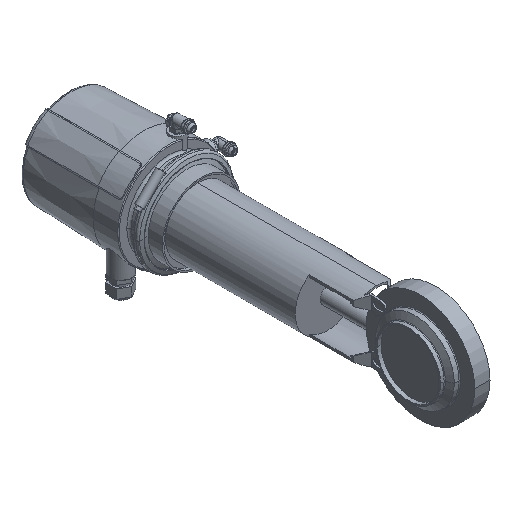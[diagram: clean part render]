
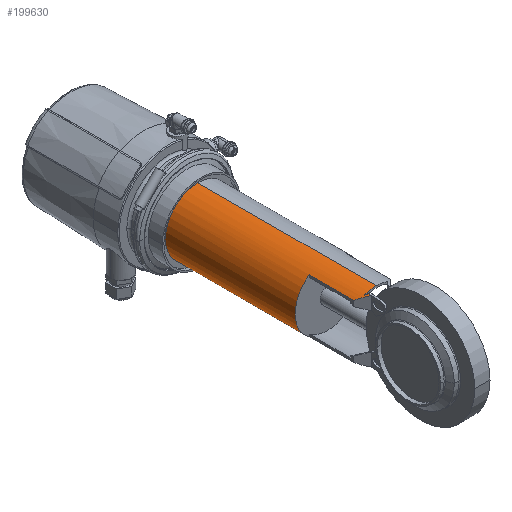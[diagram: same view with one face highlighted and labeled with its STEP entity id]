
A CAD part, isometric view. The second image highlights one B-rep face of the part: STEP entity #199630.
In plain terms, the highlighted cylindrical face has radius 42.5 mm (diameter 85 mm), a partial arc.
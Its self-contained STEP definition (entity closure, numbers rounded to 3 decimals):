
#177560=CARTESIAN_POINT('',(-98.126,-262.662,
0.));
#177570=DIRECTION('',(0.,-0.113,-0.994));
#177580=DIRECTION('',(0.,0.994,-0.113));
#177590=AXIS2_PLACEMENT_3D('',#177560,#177570,#177580);
#177600=ELLIPSE('',#177590,375.431,42.5);
#177610=CARTESIAN_POINT('',(-110.626,93.857,
-40.62));
#177620=VERTEX_POINT('',#177610);
#177630=CARTESIAN_POINT('',(-108.774,98.46,
-41.145));
#177640=VERTEX_POINT('',#177630);
#177650=EDGE_CURVE('',#177620,#177640,#177600,.T.);
#179240=CARTESIAN_POINT('',(-108.126,101.348,
-41.307));
#179250=VERTEX_POINT('',#179240);
#179300=CARTESIAN_POINT('',(-108.126,169.806,
-41.307));
#179310=DIRECTION('',(0.,-1.,0.));
#179320=VECTOR('',#179310,1.);
#179330=LINE('',#179300,#179320);
#179340=CARTESIAN_POINT('',(-108.126,97.812,
-41.307));
#179350=VERTEX_POINT('',#179340);
#179360=EDGE_CURVE('',#179250,#179350,#179330,.T.);
#180410=CARTESIAN_POINT('',(-98.126,106.406,
0.));
#180420=DIRECTION('',(0.,-1.,0.));
#180430=DIRECTION('',(0.,0.,-1.));
#180440=AXIS2_PLACEMENT_3D('',#180410,#180420,#180430);
#180450=CIRCLE('',#180440,42.5);
#180460=CARTESIAN_POINT('',(-98.126,106.406,-42.5));
#180470=VERTEX_POINT('',#180460);
#180500=CARTESIAN_POINT('',(-113.184,106.406,
-39.743));
#180510=VERTEX_POINT('',#180500);
#180520=EDGE_CURVE('',#180510,#180470,#180450,.T.);
#181670=CARTESIAN_POINT('',(-98.126,106.406,
0.));
#181680=DIRECTION('',(0.,-1.,0.));
#181690=DIRECTION('',(0.,0.,1.));
#181700=AXIS2_PLACEMENT_3D('',#181670,#181680,#181690);
#181710=CIRCLE('',#181700,42.5);
#181740=CARTESIAN_POINT('',(-98.126,106.406,42.5));
#181750=VERTEX_POINT('',#181740);
#181990=CARTESIAN_POINT('',(-113.184,106.406,
39.743));
#182000=VERTEX_POINT('',#181990);
#182030=EDGE_CURVE('',#181750,#182000,#181710,.T.);
#188430=CARTESIAN_POINT('',(-122.126,169.806,
-35.075));
#188440=VERTEX_POINT('',#188430);
#188470=CARTESIAN_POINT('',(-98.126,169.806,
0.));
#188480=DIRECTION('',(0.,-1.,0.));
#188490=DIRECTION('',(0.,0.,1.));
#188500=AXIS2_PLACEMENT_3D('',#188470,#188480,#188490);
#188510=CIRCLE('',#188500,42.5);
#188520=CARTESIAN_POINT('',(-122.126,169.806,
35.075));
#188530=VERTEX_POINT('',#188520);
#188540=EDGE_CURVE('',#188530,#188440,#188510,.T.);
#193590=CARTESIAN_POINT('',(-98.126,91.348,
0.));
#193600=DIRECTION('',(0.707,0.707,0.));
#193610=DIRECTION('',(0.707,-0.707,0.));
#193620=AXIS2_PLACEMENT_3D('',#193590,#193600,#193610);
#193630=ELLIPSE('',#193620,60.104,42.5);
#193640=EDGE_CURVE('',#179250,#180510,#193630,.T.);
#193820=CARTESIAN_POINT('',(-122.126,366.667,
-35.075));
#193830=DIRECTION('',(0.,-1.,0.));
#193840=VECTOR('',#193830,1.);
#193850=LINE('',#193820,#193840);
#193860=CARTESIAN_POINT('',(-122.126,111.812,
-35.075));
#193870=VERTEX_POINT('',#193860);
#193880=EDGE_CURVE('',#188440,#193870,#193850,.T.);
#194190=CARTESIAN_POINT('',(-110.626,366.667,
-40.62));
#194200=DIRECTION('',(0.,-1.,0.));
#194210=VECTOR('',#194200,1.);
#194220=LINE('',#194190,#194210);
#194230=CARTESIAN_POINT('',(-110.626,100.312,
-40.62));
#194240=VERTEX_POINT('',#194230);
#194250=EDGE_CURVE('',#194240,#177620,#194220,.T.);
#196270=CARTESIAN_POINT('',(-110.626,103.848,
40.62));
#196280=VERTEX_POINT('',#196270);
#196310=CARTESIAN_POINT('',(-98.126,91.348,
0.));
#196320=DIRECTION('',(0.707,0.707,0.));
#196330=DIRECTION('',(-0.707,0.707,0.));
#196340=AXIS2_PLACEMENT_3D('',#196310,#196320,#196330);
#196350=ELLIPSE('',#196340,60.104,42.5);
#196360=EDGE_CURVE('',#182000,#196280,#196350,.T.);
#197800=CARTESIAN_POINT('',(-122.126,111.812,
35.075));
#197810=VERTEX_POINT('',#197800);
#198130=CARTESIAN_POINT('',(-122.126,366.667,
35.075));
#198140=DIRECTION('',(0.,-1.,0.));
#198150=VECTOR('',#198140,1.);
#198160=LINE('',#198130,#198150);
#198170=EDGE_CURVE('',#188530,#197810,#198160,.T.);
#198940=CARTESIAN_POINT('',(-98.126,169.806,
0.));
#198950=DIRECTION('',(0.,-1.,0.));
#198960=DIRECTION('',(0.,0.,-1.));
#198970=AXIS2_PLACEMENT_3D('',#198940,#198950,#198960);
#198980=CYLINDRICAL_SURFACE('',#198970,42.5);
#198990=ORIENTED_EDGE('',*,*,#196360,.F.);
#199000=CARTESIAN_POINT('',(-110.626,366.667,
40.62));
#199010=DIRECTION('',(0.,-1.,0.));
#199020=VECTOR('',#199010,1.);
#199030=LINE('',#199000,#199020);
#199040=CARTESIAN_POINT('',(-110.626,100.312,
40.62));
#199050=VERTEX_POINT('',#199040);
#199060=EDGE_CURVE('',#196280,#199050,#199030,.T.);
#199070=ORIENTED_EDGE('',*,*,#199060,.F.);
#199080=CARTESIAN_POINT('',(-98.126,87.812,
0.));
#199090=DIRECTION('',(-0.707,-0.707,0.));
#199100=DIRECTION('',(0.707,-0.707,0.));
#199110=AXIS2_PLACEMENT_3D('',#199080,#199090,#199100);
#199120=ELLIPSE('',#199110,60.104,42.5);
#199130=EDGE_CURVE('',#199050,#197810,#199120,.T.);
#199140=ORIENTED_EDGE('',*,*,#199130,.F.);
#199150=ORIENTED_EDGE('',*,*,#198170,.T.);
#199160=ORIENTED_EDGE('',*,*,#188540,.F.);
#199170=ORIENTED_EDGE('',*,*,#193880,.F.);
#199180=CARTESIAN_POINT('',(-98.126,87.812,
0.));
#199190=DIRECTION('',(0.707,0.707,0.));
#199200=DIRECTION('',(0.707,-0.707,0.));
#199210=AXIS2_PLACEMENT_3D('',#199180,#199190,#199200);
#199220=ELLIPSE('',#199210,60.104,42.5);
#199230=EDGE_CURVE('',#194240,#193870,#199220,.T.);
#199240=ORIENTED_EDGE('',*,*,#199230,.T.);
#199250=ORIENTED_EDGE('',*,*,#194250,.F.);
#199260=ORIENTED_EDGE('',*,*,#177650,.F.);
#199270=CARTESIAN_POINT('',(-98.126,87.812,
0.));
#199280=DIRECTION('',(-0.707,-0.707,0.));
#199290=DIRECTION('',(-0.707,0.707,0.));
#199300=AXIS2_PLACEMENT_3D('',#199270,#199280,#199290);
#199310=ELLIPSE('',#199300,60.104,42.5);
#199320=EDGE_CURVE('',#177640,#179350,#199310,.T.);
#199330=ORIENTED_EDGE('',*,*,#199320,.F.);
#199340=ORIENTED_EDGE('',*,*,#179360,.T.);
#199350=ORIENTED_EDGE('',*,*,#193640,.F.);
#199360=ORIENTED_EDGE('',*,*,#180520,.F.);
#199370=CARTESIAN_POINT('',(-98.126,169.806,-42.5));
#199380=DIRECTION('',(0.,-1.,0.));
#199390=VECTOR('',#199380,1.);
#199400=LINE('',#199370,#199390);
#199410=CARTESIAN_POINT('',(-98.126,339.806,-42.5));
#199420=VERTEX_POINT('',#199410);
#199430=EDGE_CURVE('',#199420,#180470,#199400,.T.);
#199440=ORIENTED_EDGE('',*,*,#199430,.T.);
#199450=CARTESIAN_POINT('',(-98.126,339.806,
0.));
#199460=DIRECTION('',(0.,-1.,0.));
#199470=DIRECTION('',(0.,0.,-1.));
#199480=AXIS2_PLACEMENT_3D('',#199450,#199460,#199470);
#199490=CIRCLE('',#199480,42.5);
#199500=CARTESIAN_POINT('',(-98.126,339.806,42.5));
#199510=VERTEX_POINT('',#199500);
#199520=EDGE_CURVE('',#199510,#199420,#199490,.T.);
#199530=ORIENTED_EDGE('',*,*,#199520,.T.);
#199540=CARTESIAN_POINT('',(-98.126,169.806,42.5));
#199550=DIRECTION('',(0.,-1.,0.));
#199560=VECTOR('',#199550,1.);
#199570=LINE('',#199540,#199560);
#199580=EDGE_CURVE('',#199510,#181750,#199570,.T.);
#199590=ORIENTED_EDGE('',*,*,#199580,.F.);
#199600=ORIENTED_EDGE('',*,*,#182030,.F.);
#199610=EDGE_LOOP('',(#199600,#199590,#199530,#199440,#199360,#199350,
#199340,#199330,#199260,#199250,#199240,#199170,#199160,#199150,#199140,
#199070,#198990));
#199620=FACE_OUTER_BOUND('',#199610,.T.);
#199630=ADVANCED_FACE('',(#199620),#198980,.T.);
